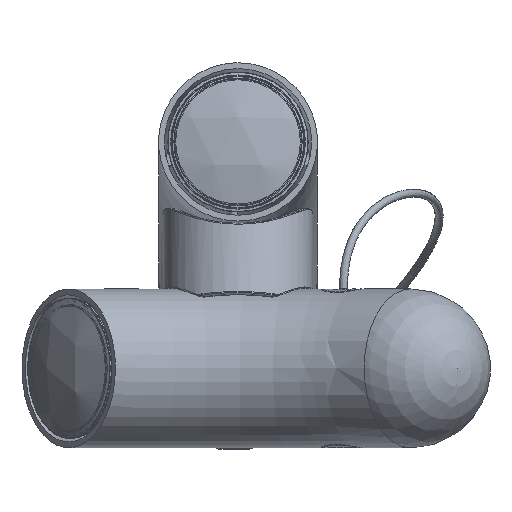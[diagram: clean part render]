
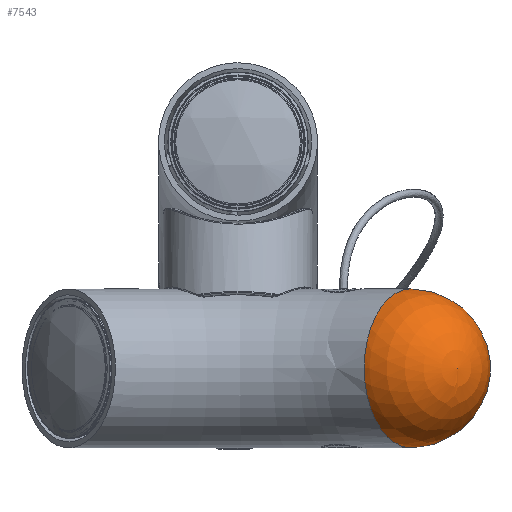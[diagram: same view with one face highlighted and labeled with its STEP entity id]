
A CAD part, top view. The second image highlights one B-rep face of the part: STEP entity #7543.
In plain terms, the highlighted spherical face has radius 54 mm.
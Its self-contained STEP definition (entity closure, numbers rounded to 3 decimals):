
#34=SPHERICAL_SURFACE('',#8214,54.);
#1249=CIRCLE('',#8215,54.);
#1250=CIRCLE('',#8216,54.);
#1883=FACE_OUTER_BOUND('',#2403,.T.);
#2403=EDGE_LOOP('',(#5442,#5443,#5444));
#3303=VERTEX_POINT('',#19634);
#3304=VERTEX_POINT('',#19636);
#4086=EDGE_CURVE('',#3303,#3303,#1249,.T.);
#4087=EDGE_CURVE('',#3303,#3304,#1250,.T.);
#5442=ORIENTED_EDGE('',*,*,#4086,.F.);
#5443=ORIENTED_EDGE('',*,*,#4087,.T.);
#5444=ORIENTED_EDGE('',*,*,#4087,.F.);
#7543=ADVANCED_FACE('',(#1883),#34,.T.);
#8214=AXIS2_PLACEMENT_3D('',#19633,#9235,#9236);
#8215=AXIS2_PLACEMENT_3D('',#19635,#9237,#9238);
#8216=AXIS2_PLACEMENT_3D('',#19637,#9239,#9240);
#9235=DIRECTION('center_axis',(0.,0.,1.));
#9236=DIRECTION('ref_axis',(1.,0.,0.));
#9237=DIRECTION('center_axis',(0.,-0.309,
0.951));
#9238=DIRECTION('ref_axis',(1.,0.,0.));
#9239=DIRECTION('center_axis',(0.,-1.,0.));
#9240=DIRECTION('ref_axis',(-1.,0.,0.));
#19633=CARTESIAN_POINT('Origin',(0.,190.211,-47.124));
#19634=CARTESIAN_POINT('',(-54.,190.211,-47.124));
#19635=CARTESIAN_POINT('Origin',(0.,190.211,
-47.124));
#19636=CARTESIAN_POINT('',(0.,190.211,-101.124));
#19637=CARTESIAN_POINT('Origin',(0.,190.211,-47.124));
